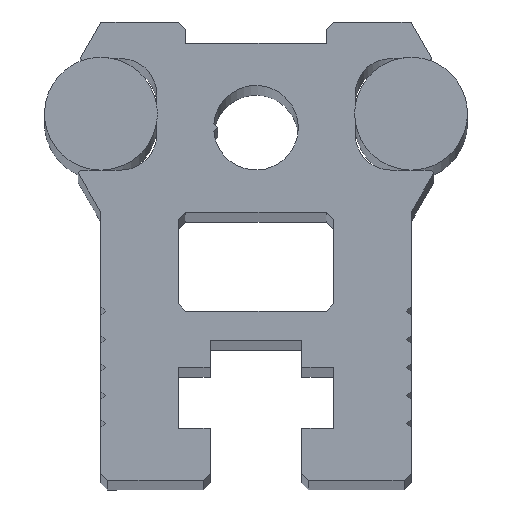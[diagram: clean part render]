
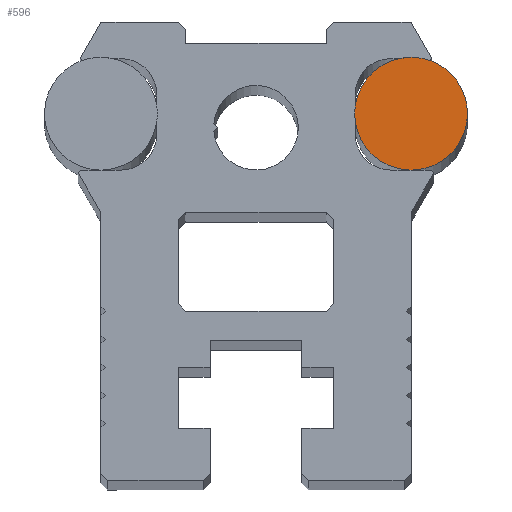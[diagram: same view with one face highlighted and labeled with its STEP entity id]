
A CAD part, top view. The second image highlights one B-rep face of the part: STEP entity #596.
In plain terms, the highlighted planar face has unit normal (0, 0, 1).
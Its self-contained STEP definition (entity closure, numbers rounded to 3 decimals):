
#593 = EDGE_CURVE ( 'NONE', #1001, #772, #3721, .T. ) ;
#596 = ADVANCED_FACE ( 'NONE', ( #3716 ), #3715, .T. ) ;
#597 = EDGE_LOOP ( 'NONE', ( #598, #599, #600, #613, #614, #615, #616 ) ) ;
#598 = ORIENTED_EDGE ( 'NONE', *, *, #649, .T. ) ;
#599 = ORIENTED_EDGE ( 'NONE', *, *, #1012, .T. ) ;
#600 = ORIENTED_EDGE ( 'NONE', *, *, #656, .T. ) ;
#613 = ORIENTED_EDGE ( 'NONE', *, *, #914, .F. ) ;
#614 = ORIENTED_EDGE ( 'NONE', *, *, #593, .T. ) ;
#615 = ORIENTED_EDGE ( 'NONE', *, *, #771, .T. ) ;
#616 = ORIENTED_EDGE ( 'NONE', *, *, #1027, .T. ) ;
#649 = EDGE_CURVE ( 'NONE', #1047, #1025, #3655, .T. ) ;
#656 = EDGE_CURVE ( 'NONE', #1032, #924, #3649, .T. ) ;
#769 = VERTEX_POINT ( 'NONE', #2308 ) ;
#771 = EDGE_CURVE ( 'NONE', #772, #769, #2307, .T. ) ;
#772 = VERTEX_POINT ( 'NONE', #2302 ) ;
#914 = EDGE_CURVE ( 'NONE', #1001, #924, #2552, .T. ) ;
#924 = VERTEX_POINT ( 'NONE', #2459 ) ;
#1001 = VERTEX_POINT ( 'NONE', #2652 ) ;
#1012 = EDGE_CURVE ( 'NONE', #1025, #1032, #2634, .T. ) ;
#1025 = VERTEX_POINT ( 'NONE', #2860 ) ;
#1027 = EDGE_CURVE ( 'NONE', #769, #1047, #2858, .T. ) ;
#1032 = VERTEX_POINT ( 'NONE', #2947 ) ;
#1047 = VERTEX_POINT ( 'NONE', #2819 ) ;
#2302 = CARTESIAN_POINT ( 'NONE',  ( 11.25, 22.008, -1.5 ) ) ;
#2303 = DIRECTION ( 'NONE',  ( 1., 0., 0. ) ) ;
#2304 = DIRECTION ( 'NONE',  ( 0., 0., 1. ) ) ;
#2305 = CARTESIAN_POINT ( 'NONE',  ( 11., 26., -1.5 ) ) ;
#2306 = AXIS2_PLACEMENT_3D ( 'NONE', #2305, #2304, #2303 ) ;
#2307 = CIRCLE ( 'NONE', #2306, 4. ) ;
#2308 = CARTESIAN_POINT ( 'NONE',  ( 15., 26., -1.5 ) ) ;
#2459 = CARTESIAN_POINT ( 'NONE',  ( 7.05, 25.37, -1.5 ) ) ;
#2548 = DIRECTION ( 'NONE',  ( 1., 0., 0. ) ) ;
#2549 = DIRECTION ( 'NONE',  ( 0., 0., -1. ) ) ;
#2550 = CARTESIAN_POINT ( 'NONE',  ( 11., 26., -1.5 ) ) ;
#2551 = AXIS2_PLACEMENT_3D ( 'NONE', #2550, #2549, #2548 ) ;
#2552 = CIRCLE ( 'NONE', #2551, 4. ) ;
#2630 = DIRECTION ( 'NONE',  ( 1., 0., 0. ) ) ;
#2631 = DIRECTION ( 'NONE',  ( 0., 0., 1. ) ) ;
#2632 = CARTESIAN_POINT ( 'NONE',  ( 11., 26., -1.5 ) ) ;
#2633 = AXIS2_PLACEMENT_3D ( 'NONE', #2632, #2631, #2630 ) ;
#2634 = CIRCLE ( 'NONE', #2633, 4. ) ;
#2652 = CARTESIAN_POINT ( 'NONE',  ( 10.75, 22.008, -1.5 ) ) ;
#2819 = CARTESIAN_POINT ( 'NONE',  ( 12.324, 29.775, -1.5 ) ) ;
#2854 = DIRECTION ( 'NONE',  ( 1., 0., 0. ) ) ;
#2855 = DIRECTION ( 'NONE',  ( 0., 0., 1. ) ) ;
#2856 = CARTESIAN_POINT ( 'NONE',  ( 11., 26., -1.5 ) ) ;
#2857 = AXIS2_PLACEMENT_3D ( 'NONE', #2856, #2855, #2854 ) ;
#2858 = CIRCLE ( 'NONE', #2857, 4. ) ;
#2860 = CARTESIAN_POINT ( 'NONE',  ( 10.111, 29.9, -1.5 ) ) ;
#2947 = CARTESIAN_POINT ( 'NONE',  ( 7.05, 26.63, -1.5 ) ) ;
#3641 = DIRECTION ( 'NONE',  ( 1., 0., 0. ) ) ;
#3642 = DIRECTION ( 'NONE',  ( 0., 0., 1. ) ) ;
#3643 = CARTESIAN_POINT ( 'NONE',  ( 11., 26., -1.5 ) ) ;
#3644 = AXIS2_PLACEMENT_3D ( 'NONE', #3643, #3642, #3641 ) ;
#3649 = CIRCLE ( 'NONE', #3644, 4. ) ;
#3652 = DIRECTION ( 'NONE',  ( 1., 0., 0. ) ) ;
#3653 = DIRECTION ( 'NONE',  ( 0., 0., 1. ) ) ;
#3654 = AXIS2_PLACEMENT_3D ( 'NONE', #3722, #3653, #3652 ) ;
#3655 = CIRCLE ( 'NONE', #3654, 4. ) ;
#3711 = DIRECTION ( 'NONE',  ( 1., 0., 0. ) ) ;
#3712 = DIRECTION ( 'NONE',  ( 0., 0., 1. ) ) ;
#3713 = CARTESIAN_POINT ( 'NONE',  ( 11., 26., -1.5 ) ) ;
#3714 = AXIS2_PLACEMENT_3D ( 'NONE', #3713, #3712, #3711 ) ;
#3715 = PLANE ( 'NONE',  #3714 ) ;
#3716 = FACE_OUTER_BOUND ( 'NONE', #597, .T. ) ;
#3717 = DIRECTION ( 'NONE',  ( 1., 0., 0. ) ) ;
#3718 = DIRECTION ( 'NONE',  ( 0., 0., 1. ) ) ;
#3719 = CARTESIAN_POINT ( 'NONE',  ( 11., 26., -1.5 ) ) ;
#3720 = AXIS2_PLACEMENT_3D ( 'NONE', #3719, #3718, #3717 ) ;
#3721 = CIRCLE ( 'NONE', #3720, 4. ) ;
#3722 = CARTESIAN_POINT ( 'NONE',  ( 11., 26., -1.5 ) ) ;
